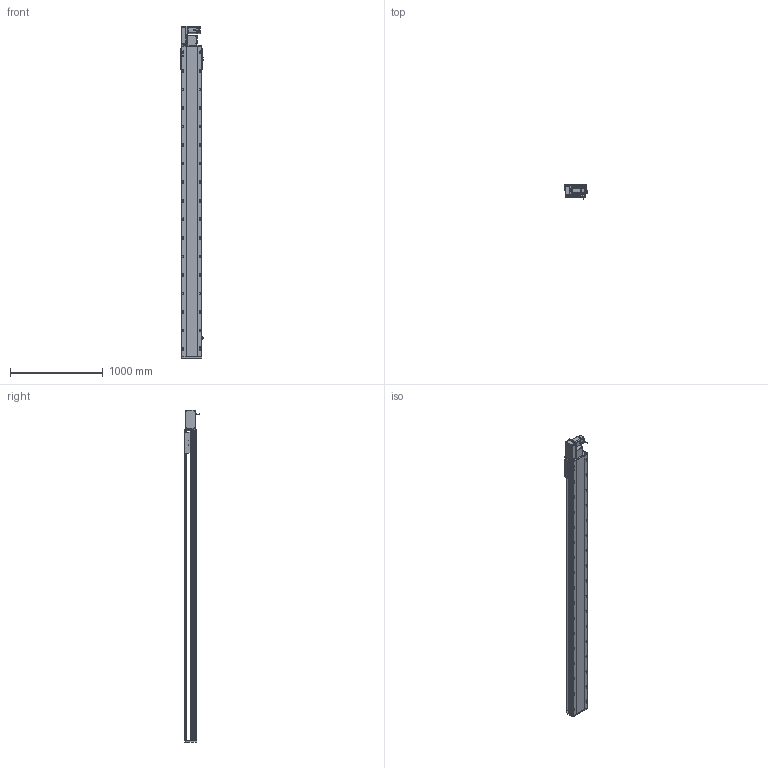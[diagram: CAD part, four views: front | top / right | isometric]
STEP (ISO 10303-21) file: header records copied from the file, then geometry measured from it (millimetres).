
FILE_DESCRIPTION (( 'STEP AP214' ), '1' );
FILE_NAME ('RTB22S-XX-3000-L-M75-C4.STEP', '2025-12-12T03:30:37', ( '' ), ( '' ), 'SwSTEP 2.0', 'SolidWorks 2018', '' );
FILE_SCHEMA (( 'AUTOMOTIVE_DESIGN' ));
Length unit declared in the file: millimetre
Products named in the file (14): RTB22S-GY-008-M75--萇儂啣^RTB22S-L-々湍釱蚾饜_RTB22S-XX-XX-L-M75-C4; RTB22S-XX-3000-L-M75-C4; RTB22S-GY-018P^RTB22S-L-々湍釱蚾饜_RTB22S-XX-XX-L-M75-C4; OMRON EE-SX672 传感器^RTB22S-XX-XX-L-M75-C4; RTH22-GY-013外置感应片^RTB22S-XX-XX-L-M75-C4; RTB22S-L-011菁釱^RTB22S-XX-XX-L-M75-C4; 750W萇儂^RTB22S-XX-XX-L-M75-C4; RTB22S-L-004賑釱^RTB22S-XX-XX-L-M75-C4; RTB22S-GY-017P^RTB22S-L-々湍釱蚾饜_RTB22S-XX-XX-L-M75-C4; RTB22S-GY-005P^RTB22S-L-々湍釱蚾饜_RTB22S-XX-XX-L-M75-C4; RTB22S-GY-001耜裔^RTB22S-XX-XX-L-M75-C4; RTB22S-GY-007奻裔^RTB22S-XX-XX-L-M75-C4; RTB22S-GY-014--々湍釱^RTB22S-L-々湍釱蚾饜_RTB22S-XX-XX-L-M75-C4; RTB22S-L-々湍釱蚾饜^RTB22S-XX-XX-L-M75-C4
Assembly tree (16 placements, depth 3):
  RTB22S-XX-3000-L-M75-C4
    RTB22S-L-011菁釱^RTB22S-XX-XX-L-M75-C4
    750W萇儂^RTB22S-XX-XX-L-M75-C4
    RTB22S-L-004賑釱^RTB22S-XX-XX-L-M75-C4
    OMRON EE-SX672 传感器^RTB22S-XX-XX-L-M75-C4  x3
    RTH22-GY-013外置感应片^RTB22S-XX-XX-L-M75-C4
    RTB22S-GY-007奻裔^RTB22S-XX-XX-L-M75-C4
    RTB22S-GY-001耜裔^RTB22S-XX-XX-L-M75-C4
    RTB22S-L-々湍釱蚾饜^RTB22S-XX-XX-L-M75-C4
      RTB22S-GY-014--々湍釱^RTB22S-L-々湍釱蚾饜_RTB22S-XX-XX-L-M75-C4
      RTB22S-GY-017P^RTB22S-L-々湍釱蚾饜_RTB22S-XX-XX-L-M75-C4  x2
      RTB22S-GY-005P^RTB22S-L-々湍釱蚾饜_RTB22S-XX-XX-L-M75-C4
      RTB22S-GY-008-M75--萇儂啣^RTB22S-L-々湍釱蚾饜_RTB22S-XX-XX-L-M75-C4
      RTB22S-GY-018P^RTB22S-L-々湍釱蚾饜_RTB22S-XX-XX-L-M75-C4
Bounding box: 238.5 x 162.7 x 3579 mm (x, y, z)
Volume: 44592757.1 mm3; surface area: 4545211.9 mm2
Topology: 15 solids, 15 shells, 2145 faces, 5836 edges, 3722 vertices
Faces by surface type: plane 933, cylinder 730, bspline 296, cone 174, sphere 8, torus 4
Entity records: 58690 total; most frequent: CARTESIAN_POINT 16504, ORIENTED_EDGE 8388, DIRECTION 8228, EDGE_CURVE 4194, AXIS2_PLACEMENT_3D 2962, VERTEX_POINT 2726, LINE 2304, VECTOR 2304
